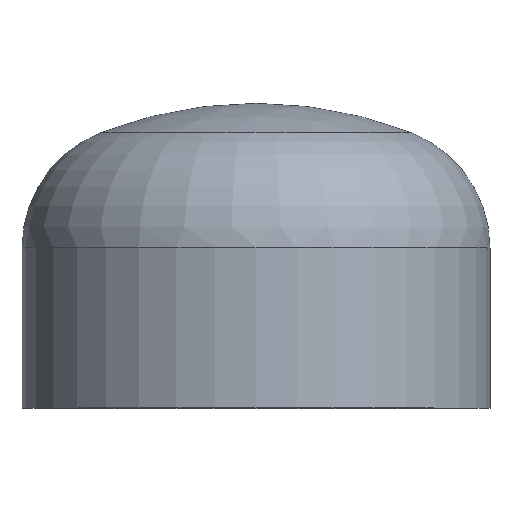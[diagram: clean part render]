
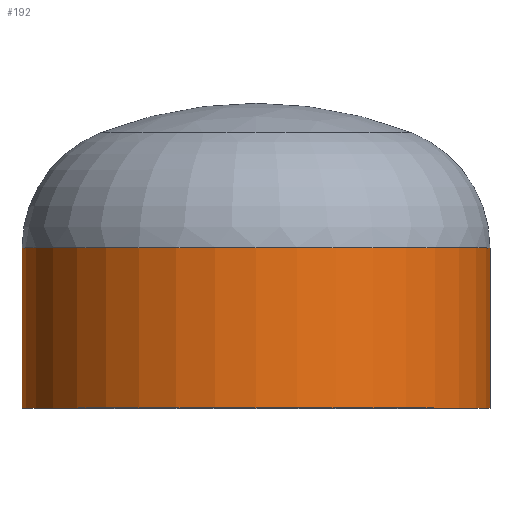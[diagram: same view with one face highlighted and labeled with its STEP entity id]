
A CAD part, top view. The second image highlights one B-rep face of the part: STEP entity #192.
In plain terms, the highlighted cylindrical face has radius 109.55 mm (diameter 219.1 mm), a partial arc.
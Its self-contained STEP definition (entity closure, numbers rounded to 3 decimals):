
#8 = LINE ( 'NONE', #206, #17 ) ;
#17 = VECTOR ( 'NONE', #138, 1000. ) ;
#36 = ORIENTED_EDGE ( 'NONE', *, *, #399, .T. ) ;
#61 = AXIS2_PLACEMENT_3D ( 'NONE', #193, #178, #179 ) ;
#62 = VERTEX_POINT ( 'NONE', #231 ) ;
#68 = VERTEX_POINT ( 'NONE', #132 ) ;
#78 = CARTESIAN_POINT ( 'NONE',  ( 0., 75., 0. ) ) ;
#80 = VERTEX_POINT ( 'NONE', #123 ) ;
#96 = AXIS2_PLACEMENT_3D ( 'NONE', #180, #296, #244 ) ;
#123 = CARTESIAN_POINT ( 'NONE',  ( -109.55, 75., 0. ) ) ;
#126 = ORIENTED_EDGE ( 'NONE', *, *, #365, .F. ) ;
#132 = CARTESIAN_POINT ( 'NONE',  ( 109.55, 75., 0. ) ) ;
#138 = DIRECTION ( 'NONE',  ( 0., -1., 0. ) ) ;
#140 = VERTEX_POINT ( 'NONE', #310 ) ;
#144 = EDGE_CURVE ( 'NONE', #68, #62, #190, .T. ) ;
#147 = ORIENTED_EDGE ( 'NONE', *, *, #144, .F. ) ;
#156 = AXIS2_PLACEMENT_3D ( 'NONE', #78, #167, #176 ) ;
#162 = CYLINDRICAL_SURFACE ( 'NONE', #96, 109.55 ) ;
#167 = DIRECTION ( 'NONE',  ( 0., -1., 0. ) ) ;
#176 = DIRECTION ( 'NONE',  ( 1., 0., 0. ) ) ;
#178 = DIRECTION ( 'NONE',  ( 0., -1., 0. ) ) ;
#179 = DIRECTION ( 'NONE',  ( 1., 0., 0. ) ) ;
#180 = CARTESIAN_POINT ( 'NONE',  ( 0., 0., 0. ) ) ;
#186 = CIRCLE ( 'NONE', #61, 109.55 ) ;
#190 = LINE ( 'NONE', #325, #411 ) ;
#192 = ADVANCED_FACE ( 'NONE', ( #241 ), #162, .T. ) ;
#193 = CARTESIAN_POINT ( 'NONE',  ( 0., 0., 0. ) ) ;
#206 = CARTESIAN_POINT ( 'NONE',  ( -109.55, 0., 0. ) ) ;
#231 = CARTESIAN_POINT ( 'NONE',  ( 109.55, 0., 0. ) ) ;
#241 = FACE_OUTER_BOUND ( 'NONE', #388, .T. ) ;
#244 = DIRECTION ( 'NONE',  ( 1., 0., 0. ) ) ;
#245 = CIRCLE ( 'NONE', #156, 109.55 ) ;
#296 = DIRECTION ( 'NONE',  ( 0., -1., 0. ) ) ;
#309 = DIRECTION ( 'NONE',  ( 0., -1., 0. ) ) ;
#310 = CARTESIAN_POINT ( 'NONE',  ( -109.55, 0., 0. ) ) ;
#325 = CARTESIAN_POINT ( 'NONE',  ( 109.55, 0., 0. ) ) ;
#341 = ORIENTED_EDGE ( 'NONE', *, *, #363, .T. ) ;
#363 = EDGE_CURVE ( 'NONE', #80, #140, #8, .T. ) ;
#365 = EDGE_CURVE ( 'NONE', #62, #140, #186, .T. ) ;
#388 = EDGE_LOOP ( 'NONE', ( #36, #341, #126, #147 ) ) ;
#399 = EDGE_CURVE ( 'NONE', #68, #80, #245, .T. ) ;
#411 = VECTOR ( 'NONE', #309, 1000. ) ;
